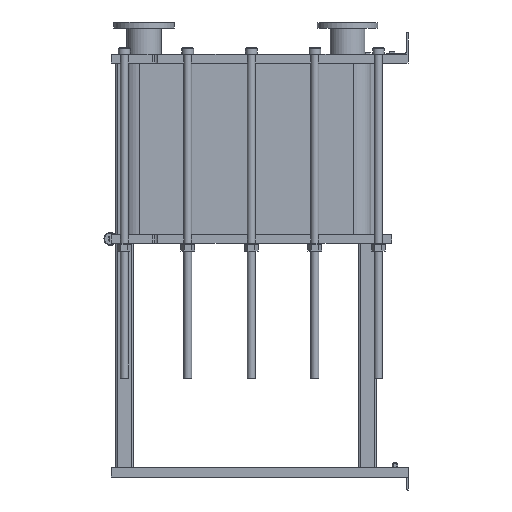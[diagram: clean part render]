
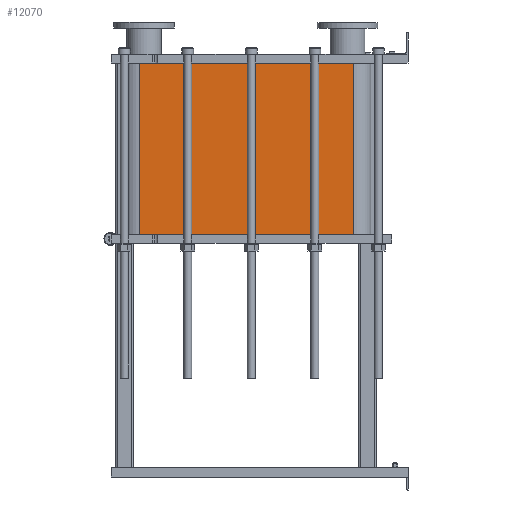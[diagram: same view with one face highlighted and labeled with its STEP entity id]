
A CAD part, left-side view. The second image highlights one B-rep face of the part: STEP entity #12070.
In plain terms, the highlighted planar face has unit normal (-1, 0, 0).
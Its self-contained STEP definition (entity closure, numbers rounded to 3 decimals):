
#1064=LINE('',#21140,#2164);
#1065=LINE('',#21144,#2165);
#1066=LINE('',#21146,#2166);
#1067=LINE('',#21147,#2167);
#2164=VECTOR('',#15790,10.);
#2165=VECTOR('',#15795,10.);
#2166=VECTOR('',#15796,10.);
#2167=VECTOR('',#15797,10.);
#3304=FACE_OUTER_BOUND('',#4091,.T.);
#4091=EDGE_LOOP('',(#9793,#9794,#9795,#9796));
#5677=VERTEX_POINT('',#21137);
#5678=VERTEX_POINT('',#21139);
#5679=VERTEX_POINT('',#21143);
#5680=VERTEX_POINT('',#21145);
#7118=EDGE_CURVE('',#5678,#5677,#1064,.T.);
#7120=EDGE_CURVE('',#5677,#5679,#1065,.T.);
#7121=EDGE_CURVE('',#5680,#5679,#1066,.T.);
#7122=EDGE_CURVE('',#5680,#5678,#1067,.T.);
#9793=ORIENTED_EDGE('',*,*,#7120,.T.);
#9794=ORIENTED_EDGE('',*,*,#7121,.F.);
#9795=ORIENTED_EDGE('',*,*,#7122,.T.);
#9796=ORIENTED_EDGE('',*,*,#7118,.T.);
#11441=PLANE('',#13191);
#12070=ADVANCED_FACE('',(#3304),#11441,.T.);
#13191=AXIS2_PLACEMENT_3D('',#21142,#15793,#15794);
#15790=DIRECTION('',(0.,0.,-1.));
#15793=DIRECTION('center_axis',(-1.,0.,0.));
#15794=DIRECTION('ref_axis',(0.,1.,0.));
#15795=DIRECTION('',(0.,-1.,0.));
#15796=DIRECTION('',(0.,0.,-1.));
#15797=DIRECTION('',(0.,1.,0.));
#21137=CARTESIAN_POINT('',(-248.152,1243.818,-793.5));
#21139=CARTESIAN_POINT('',(-248.152,1243.818,0.));
#21140=CARTESIAN_POINT('',(-248.152,1243.818,0.));
#21142=CARTESIAN_POINT('Origin',(-248.152,251.818,0.));
#21143=CARTESIAN_POINT('',(-248.152,251.818,-793.5));
#21144=CARTESIAN_POINT('',(-248.152,499.818,-793.5));
#21145=CARTESIAN_POINT('',(-248.152,251.818,0.));
#21146=CARTESIAN_POINT('',(-248.152,251.818,0.));
#21147=CARTESIAN_POINT('',(-248.152,251.818,0.));
